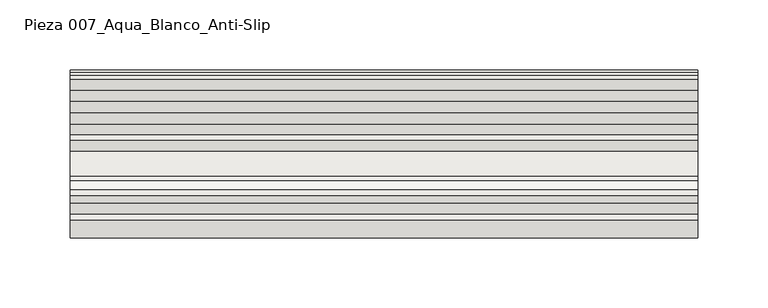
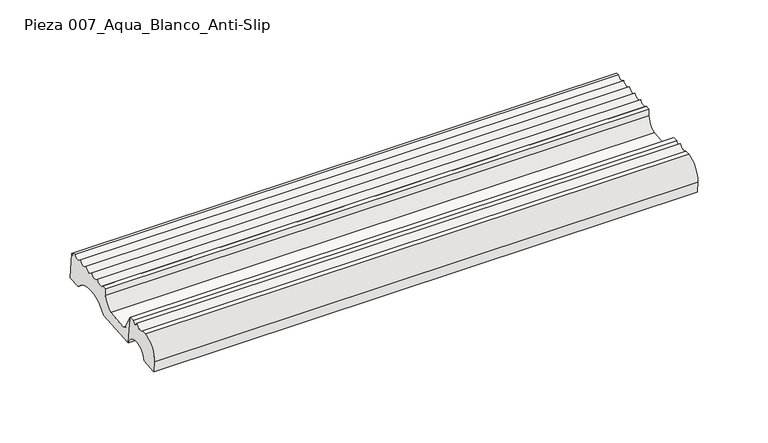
"""IFC4 building model written with IfcOpenShell, lengths in millimetres: slab geometry, ROSA GRES_007 : Pieza 007_Aqua_Blanco_Anti-Slip."""

from ifc_helpers import new_model, si_unit, point, frame, frame_2d, origin, place, context, project, spatial, polyline, circle_curve, trimmed, segment, composite_curve, outline, extrude, source, transform, mapped, element, save


def pieza_007_aqua_blanco_anti_slip_ac10978e(model_context):
    return source(origin(), model_context, "Body", "SweptSolid", [
        extrude(outline(composite_curve([segment(polyline([(14.3742659, 174.3159971), (0.6896004, 173.202129), (-0.0710994, 182.547869)]), True, "CONTINUOUS"), segment(trimmed(circle_curve(frame_2d((15.1536138, 183.7870899)), 15.2750633), [point((-0.0710994, 182.547869))], [point((12.7748841, 198.875801))], False, "CARTESIAN"), True, "CONTINUOUS"), segment(polyline([(12.7748841, 198.875801), (16.9364731, 199.1796191)]), True, "CONTINUOUS"), segment(trimmed(circle_curve(frame_2d((20.3008643, 202.7650351)), 4.9167404), [point((16.9364731, 199.1796191))], [point((24.7247274, 200.6193952))], True, "CARTESIAN"), True, "CONTINUOUS"), segment(trimmed(circle_curve(frame_2d((27.3971937, 201.142641)), 2.7232081), [point((24.7247274, 200.6193952))], [point((29.9345538, 200.1538709))], True, "CARTESIAN"), True, "CONTINUOUS"), segment(polyline([(29.9345538, 200.1538709), (33.8762309, 200.4746837), (37.1820416, 176.172444)]), True, "CONTINUOUS"), segment(trimmed(circle_curve(frame_2d((25.9545763, 173.0767428)), 11.6464304), [point((37.1820416, 176.172444))], [point((14.3742659, 174.3159971))], True, "CARTESIAN"), True, "CONTINUOUS")], self_intersect=False)), frame((0.0, 0.0, 0.0), z_axis=(1.0, 0.0, 0.0), x_axis=(0.0, 1.0, 0.0)), (0.0, 0.0, 1.0), 446.1165048),
        extrude(outline(composite_curve([segment(polyline([(71.8498608, 178.9942432), (37.1820416, 176.172444), (33.8762309, 200.4746837)]), True, "CONTINUOUS"), segment(trimmed(circle_curve(frame_2d((106.9597263, 233.2212806)), 80.084561), [point((33.8762309, 200.4746837))], [point((40.9402045, 187.8896178))], True, "CARTESIAN"), True, "CONTINUOUS"), segment(trimmed(circle_curve(frame_2d((43.5817022, 189.3117604)), 3.0), [point((40.9402045, 187.8896178))], [point((43.8250834, 186.3216491))], True, "CARTESIAN"), True, "CONTINUOUS"), segment(polyline([(43.8250834, 186.3216491), (61.867532, 187.7902205)]), True, "CONTINUOUS"), segment(trimmed(circle_curve(frame_2d((57.0579989, 199.0821231)), 12.2734948), [point((61.867532, 187.7902205))], [point((69.3023399, 198.236672))], True, "CARTESIAN"), True, "CONTINUOUS"), segment(polyline([(69.3023399, 198.236672), (69.6579726, 203.3871621), (73.3820924, 203.6902881)]), True, "CONTINUOUS"), segment(trimmed(circle_curve(frame_2d((76.8218788, 206.722806)), 4.5856619), [point((73.3820924, 203.6902881))], [point((81.0271834, 204.8942251))], True, "CARTESIAN"), True, "CONTINUOUS"), segment(trimmed(circle_curve(frame_2d((84.8780848, 207.3839748)), 4.5856619), [point((81.0271834, 204.8942251))], [point((89.0833894, 205.555394))], True, "CARTESIAN"), True, "CONTINUOUS"), segment(trimmed(circle_curve(frame_2d((92.9342908, 208.0451437)), 4.5856619), [point((89.0833894, 205.555394))], [point((97.1292049, 206.1928503))], True, "CARTESIAN"), True, "CONTINUOUS"), segment(trimmed(circle_curve(frame_2d((100.9933064, 209.1504161)), 4.8660534), [point((97.1292049, 206.1928503))], [point((105.2742048, 206.836894))], True, "CARTESIAN"), True, "CONTINUOUS"), segment(trimmed(circle_curve(frame_2d((109.1074243, 209.7932705)), 4.8408403), [point((105.2742048, 206.836894))], [point((113.0660814, 207.0070959))], True, "CARTESIAN"), True, "CONTINUOUS"), segment(polyline([(113.0660814, 207.0070959), (115.3491545, 207.1930072), (115.5338707, 204.9236084), (117.4809059, 205.0820876), (119.2900344, 182.8556525), (108.342302, 181.9645582)]), True, "CONTINUOUS"), segment(trimmed(circle_curve(frame_2d((91.1625174, 167.3774726)), 22.5372595), [point((108.342302, 181.9645582))], [point((71.8498608, 178.9942432))], True, "CARTESIAN"), True, "CONTINUOUS")], self_intersect=False)), frame((0.0, 0.0, 0.0), z_axis=(1.0, 0.0, 0.0), x_axis=(0.0, 1.0, 0.0)), (0.0, 0.0, 1.0), 446.1165048),
    ])


if __name__ == "__main__":
    model = new_model("IFC4")
    model_context = context("Model", 3, world=origin())
    ifc_project = project(units=[si_unit("LENGTHUNIT", "METRE", prefix="MILLI")], contexts=[model_context])
    site = spatial("IfcSite", under=ifc_project)
    building = spatial("IfcBuilding", under=site)
    placement = place(None, origin())
    pieza_007_aqua_blanco_anti_slip_shape = pieza_007_aqua_blanco_anti_slip_ac10978e(model_context)
    element("IfcSlab", 1, ObjectType="ROSA GRES_007 : Pieza 007_Aqua_Blanco_Anti-Slip", at=placement, inside=building, context=model_context, shape_type="MappedRepresentation", body=[
        mapped(pieza_007_aqua_blanco_anti_slip_shape, transform((0.0, 0.0, 0.0), x_axis=(1.0, 0.0, 0.0), y_axis=(0.0, 1.0, 0.0), z_axis=(0.0, 0.0, 1.0))),
    ])
    save(model, "model.ifc")
